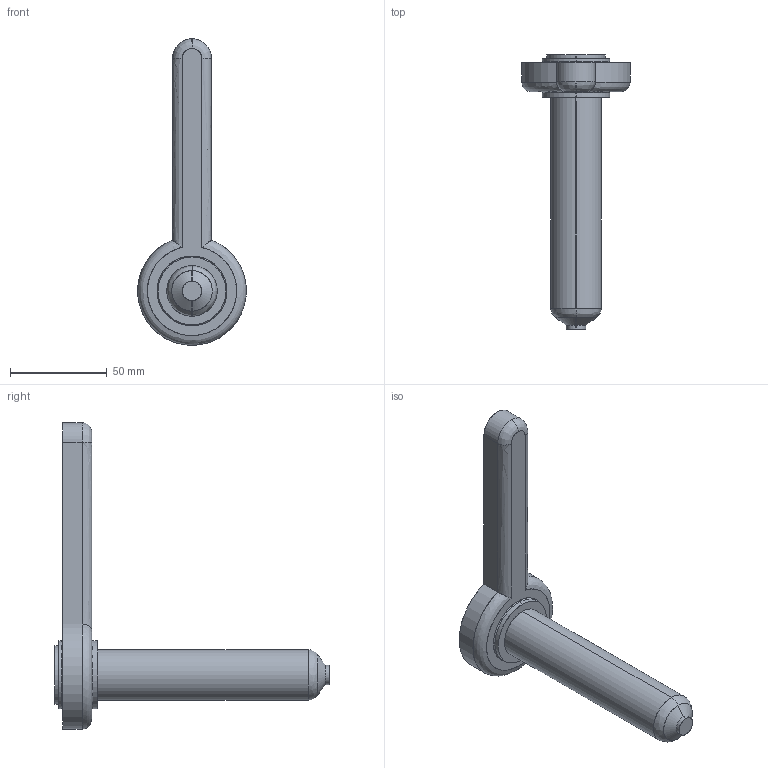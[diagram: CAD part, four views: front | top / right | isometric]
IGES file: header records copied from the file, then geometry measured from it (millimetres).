
Start section: SolidWorks IGES file using analytic representation for surfaces
Global section: file name: C:\Documents and Settings\ws-20\Desktop\TEM\Sede UGEP3153-S-A C-119 L-139 P-0.IGS; native system: SolidWorks 2012; preprocessor: SolidWorks 2012; author: ws-20; date: 120404.085211; units: millimetre
Bounding box: 56 x 141.3 x 158 mm (x, y, z)
Surface area: 23665.5 mm2 (no closed solid volume)
Topology: 0 solids, 0 shells, 34 faces, 754 edges, 754 vertices
Faces by surface type: revolution 21, bspline 13
